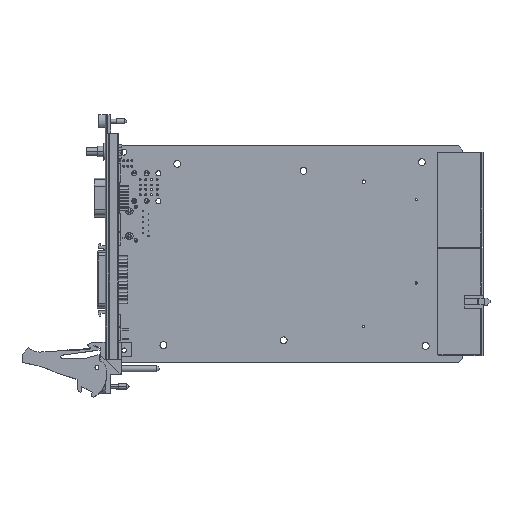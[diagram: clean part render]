
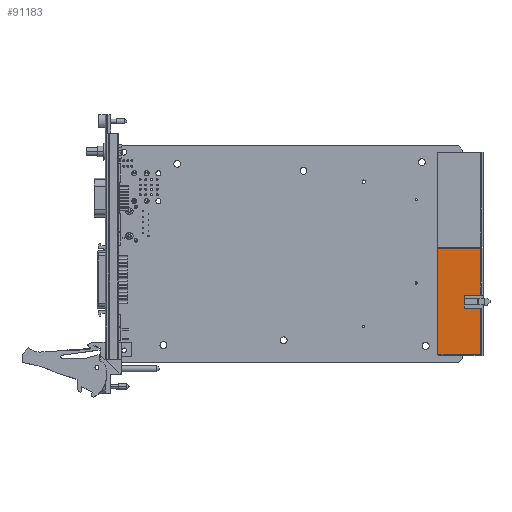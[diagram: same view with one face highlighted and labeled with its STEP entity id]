
A CAD part, top view. The second image highlights one B-rep face of the part: STEP entity #91183.
In plain terms, the highlighted planar face has unit normal (0, 0, 1).
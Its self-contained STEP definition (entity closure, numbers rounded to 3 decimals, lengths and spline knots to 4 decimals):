
#15757=DIRECTION('',(1.,0.,0.));
#15758=VECTOR('',#15757,0.7776);
#15759=CARTESIAN_POINT('',(5.8456,-3.7995,
0.3943));
#15760=LINE('',#15759,#15758);
#15769=DIRECTION('',(1.,0.,0.));
#15770=VECTOR('',#15769,0.7776);
#15771=CARTESIAN_POINT('',(5.8456,-1.8704,
0.3943));
#15772=LINE('',#15771,#15770);
#16093=DIRECTION('',(0.,1.,0.));
#16094=VECTOR('',#16093,0.8446);
#16095=CARTESIAN_POINT('',(6.6231,-3.7995,
0.3943));
#16096=LINE('',#16095,#16094);
#16097=DIRECTION('',(-1.,0.,0.));
#16098=VECTOR('',#16097,0.3031);
#16099=CARTESIAN_POINT('',(6.6231,-2.715,
0.3943));
#16100=LINE('',#16099,#16098);
#16101=DIRECTION('',(0.,-1.,0.));
#16102=VECTOR('',#16101,0.06);
#16103=CARTESIAN_POINT('',(6.32,-2.715,
0.3943));
#16104=LINE('',#16103,#16102);
#16105=DIRECTION('',(0.,-1.,0.));
#16106=VECTOR('',#16105,0.06);
#16107=CARTESIAN_POINT('',(6.32,-2.895,
0.3943));
#16108=LINE('',#16107,#16106);
#16109=DIRECTION('',(-1.,0.,0.));
#16110=VECTOR('',#16109,0.3031);
#16111=CARTESIAN_POINT('',(6.6231,-2.955,
0.3943));
#16112=LINE('',#16111,#16110);
#16113=DIRECTION('',(0.,1.,0.));
#16114=VECTOR('',#16113,1.9291);
#16115=CARTESIAN_POINT('',(5.8456,-3.7995,
0.3943));
#16116=LINE('',#16115,#16114);
#16161=DIRECTION('',(0.,1.,0.));
#16162=VECTOR('',#16161,0.12);
#16163=CARTESIAN_POINT('',(6.32,-2.895,
0.3943));
#16164=LINE('',#16163,#16162);
#16185=DIRECTION('',(0.,1.,0.));
#16186=VECTOR('',#16185,0.8446);
#16187=CARTESIAN_POINT('',(6.6231,-2.715,
0.3943));
#16188=LINE('',#16187,#16186);
#56405=CARTESIAN_POINT('',(5.8456,-3.7995,
0.3943));
#56406=CARTESIAN_POINT('',(6.6231,-3.7995,
0.3943));
#56407=VERTEX_POINT('',#56405);
#56408=VERTEX_POINT('',#56406);
#56409=CARTESIAN_POINT('',(5.8456,-1.8704,
0.3943));
#56410=CARTESIAN_POINT('',(6.6231,-1.8704,
0.3943));
#56411=VERTEX_POINT('',#56409);
#56412=VERTEX_POINT('',#56410);
#56421=CARTESIAN_POINT('',(6.6231,-2.715,
0.3943));
#56422=CARTESIAN_POINT('',(6.32,-2.715,
0.3943));
#56423=VERTEX_POINT('',#56421);
#56424=VERTEX_POINT('',#56422);
#56425=CARTESIAN_POINT('',(6.32,-2.775,
0.3943));
#56426=VERTEX_POINT('',#56425);
#56427=CARTESIAN_POINT('',(6.6231,-2.955,
0.3943));
#56428=CARTESIAN_POINT('',(6.32,-2.955,
0.3943));
#56429=VERTEX_POINT('',#56427);
#56430=VERTEX_POINT('',#56428);
#56431=CARTESIAN_POINT('',(6.32,-2.895,
0.3943));
#56432=VERTEX_POINT('',#56431);
#91162=CARTESIAN_POINT('',(5.8456,-3.7995,
0.3943));
#91163=DIRECTION('',(0.,0.,1.));
#91164=DIRECTION('',(1.,0.,0.));
#91165=AXIS2_PLACEMENT_3D('',#91162,#91163,#91164);
#91166=PLANE('',#91165);
#91168=ORIENTED_EDGE('',*,*,#91167,.T.);
#91170=ORIENTED_EDGE('',*,*,#91169,.T.);
#91172=ORIENTED_EDGE('',*,*,#91171,.F.);
#91173=ORIENTED_EDGE('',*,*,#91101,.T.);
#91174=ORIENTED_EDGE('',*,*,#91118,.F.);
#91175=ORIENTED_EDGE('',*,*,#91157,.F.);
#91176=ORIENTED_EDGE('',*,*,#90654,.F.);
#91177=ORIENTED_EDGE('',*,*,#90672,.T.);
#91178=ORIENTED_EDGE('',*,*,#90690,.T.);
#91180=ORIENTED_EDGE('',*,*,#91179,.F.);
#91181=EDGE_LOOP('',(#91168,#91170,#91172,#91173,#91174,#91175,#91176,#91177,
#91178,#91180));
#91182=FACE_OUTER_BOUND('',#91181,.F.);
#91183=ADVANCED_FACE('',(#91182),#91166,.T.);
#90654=EDGE_CURVE('',#56407,#56408,#15760,.T.);
#90672=EDGE_CURVE('',#56407,#56411,#16116,.T.);
#90690=EDGE_CURVE('',#56411,#56412,#15772,.T.);
#91101=EDGE_CURVE('',#56432,#56430,#16108,.T.);
#91118=EDGE_CURVE('',#56429,#56430,#16112,.T.);
#91157=EDGE_CURVE('',#56408,#56429,#16096,.T.);
#91167=EDGE_CURVE('',#56423,#56424,#16100,.T.);
#91169=EDGE_CURVE('',#56424,#56426,#16104,.T.);
#91171=EDGE_CURVE('',#56432,#56426,#16164,.T.);
#91179=EDGE_CURVE('',#56423,#56412,#16188,.T.);
